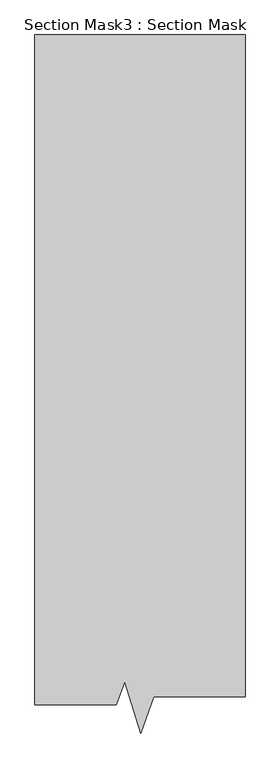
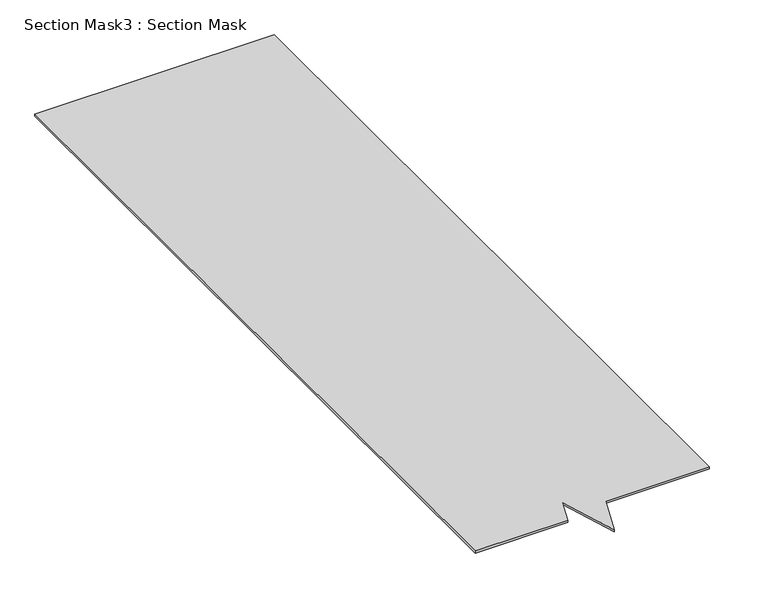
"""IFC4 building model written with IfcOpenShell, lengths in millimetres: proxy geometry, Section Mask3 : Section Mask."""

import ifcopenshell
import ifcopenshell.guid

model = None  # the IFC model being written
_history = None  # IfcOwnerHistory: only IFC2X3 demands one
_inside = {}  # id of a spatial element -> (the spatial element, [elements in it])
_under = {}  # id of a project, library or spatial element -> (it, [spatial elements below it])
_declared = {}  # id of a project -> (the project, [libraries it declares])
_typed = {}  # id of a type object -> (the type object, [elements of that type])
_made_of = {}  # id of a material, layer set ... -> (it, [elements and type objects made of it])


def new_model(schema):
    """Start an empty IFC model of exactly this schema.

    Asked for "IFC4X3", IfcOpenShell would pick the latest addendum, in which some entities
    have other attributes; the version numbers below select the first issue.
    IFC2X3 requires an IfcOwnerHistory on every rooted entity: one is made here for all.
    """
    global model, _history
    if schema == "IFC4X3":
        model = ifcopenshell.file(schema_version=(4, 3, 0, 0))
    else:
        model = ifcopenshell.file(schema=schema)
    _inside.clear()
    _under.clear()
    _declared.clear()
    _typed.clear()
    _made_of.clear()
    _history = None
    if model.schema == "IFC2X3":
        org = make("IfcOrganization", Name="unknown")
        user = make(
            "IfcPersonAndOrganization",
            ThePerson=make("IfcPerson", FamilyName="unknown"),
            TheOrganization=org,
        )
        app = make(
            "IfcApplication",
            ApplicationDeveloper=org,
            Version="unknown",
            ApplicationFullName="unknown",
            ApplicationIdentifier="unknown",
        )
        _history = make(
            "IfcOwnerHistory",
            OwningUser=user,
            OwningApplication=app,
            ChangeAction="ADDED",
            CreationDate=0,
        )
    return model


def make(cls, **values):
    """One entity of the class cls with the attributes given. An attribute that is None is left unset."""
    return model.create_entity(
        cls, **{name: value for name, value in values.items() if value is not None}
    )


def rooted(cls, **values):
    """An entity with a GlobalId (a new one), such as an element, a storey or a relation."""
    return make(cls, GlobalId=ifcopenshell.guid.new(), OwnerHistory=_history, **values)


def si_unit(unit_type, name, prefix=None):
    """IfcSIUnit, for example si_unit("LENGTHUNIT", "METRE", prefix="MILLI")."""
    return make("IfcSIUnit", UnitType=unit_type, Prefix=prefix, Name=name)


def assignment(units):
    """IfcUnitAssignment: the units of a project."""
    return None if units is None else make("IfcUnitAssignment", Units=units)


def point(xyz):
    """IfcCartesianPoint."""
    return None if xyz is None else make("IfcCartesianPoint", Coordinates=xyz)


def direction(xyz):
    """IfcDirection."""
    return None if xyz is None else make("IfcDirection", DirectionRatios=xyz)


def frame(location, z_axis=None, x_axis=None):
    """IfcAxis2Placement3D, a coordinate frame: its origin and axes. An axis left out is left unset."""
    return make(
        "IfcAxis2Placement3D",
        Location=point(location),
        Axis=direction(z_axis),
        RefDirection=direction(x_axis),
    )


def origin():
    """The frame at (0, 0, 0) with its axes left unset."""
    return frame((0.0, 0.0, 0.0))


def place(relative_to, where):
    """IfcLocalPlacement: puts the frame where relative to a parent placement (None: the world)."""
    return make(
        "IfcLocalPlacement", PlacementRelTo=relative_to, RelativePlacement=where
    )


def context(
    kind, dimensions, precision=None, world=None, true_north=None, identifier=None
):
    """IfcGeometricRepresentationContext, for example the 3D "Model" context."""
    return make(
        "IfcGeometricRepresentationContext",
        ContextIdentifier=identifier,
        ContextType=kind,
        CoordinateSpaceDimension=dimensions,
        Precision=precision,
        WorldCoordinateSystem=world,
        TrueNorth=true_north,
    )


def project(units=None, contexts=None):
    """IfcProject with its units and contexts."""
    return rooted(
        "IfcProject",
        Name="project",
        RepresentationContexts=contexts,
        UnitsInContext=assignment(units),
    )


def spatial(cls, under=None, at=None, **own):
    """A site, building, storey or space (cls), placed at a placement, below another one or the project."""
    s = rooted(cls, ObjectPlacement=at, **own)
    if under is not None:
        _under.setdefault(under.id(), (under, []))[1].append(s)
    return s


def polyline(points):
    """IfcPolyline through the points."""
    return make("IfcPolyline", Points=[point(p) for p in points])


def outline(outer, holes=None, kind="AREA"):
    """IfcArbitraryClosedProfileDef: a profile drawn as a closed curve; with holes, ...WithVoids."""
    if holes is None:
        return make("IfcArbitraryClosedProfileDef", ProfileType=kind, OuterCurve=outer)
    return make(
        "IfcArbitraryProfileDefWithVoids",
        ProfileType=kind,
        OuterCurve=outer,
        InnerCurves=holes,
    )


def extrude(swept, where, along, depth):
    """IfcExtrudedAreaSolid: the profile swept, set in the frame where, extruded along a direction by depth."""
    return make(
        "IfcExtrudedAreaSolid",
        SweptArea=swept,
        Position=where,
        ExtrudedDirection=direction(along),
        Depth=depth,
    )


def shape(context_of_items, identifier, shape_type, items):
    """IfcShapeRepresentation: the items that make up one representation, for example the "Body"."""
    return make(
        "IfcShapeRepresentation",
        ContextOfItems=context_of_items,
        RepresentationIdentifier=identifier,
        RepresentationType=shape_type,
        Items=items,
    )


def source(mapping_origin, context_of_items, identifier, shape_type, items):
    """IfcRepresentationMap: a shape defined once, which mapped items show again and again."""
    return make(
        "IfcRepresentationMap",
        MappingOrigin=mapping_origin,
        MappedRepresentation=shape(context_of_items, identifier, shape_type, items),
    )


def transform(
    local_origin,
    x_axis=None,
    y_axis=None,
    z_axis=None,
    scale=None,
    scale2=None,
    scale3=None,
    uniform=True,
):
    """IfcCartesianTransformationOperator3D, or its non-uniform kind. x_axis, y_axis, z_axis: its Axis1, 2, 3."""
    if uniform:
        return make(
            "IfcCartesianTransformationOperator3D",
            Axis1=direction(x_axis),
            Axis2=direction(y_axis),
            LocalOrigin=point(local_origin),
            Scale=scale,
            Axis3=direction(z_axis),
        )
    return make(
        "IfcCartesianTransformationOperator3DnonUniform",
        Axis1=direction(x_axis),
        Axis2=direction(y_axis),
        LocalOrigin=point(local_origin),
        Scale=scale,
        Axis3=direction(z_axis),
        Scale2=scale2,
        Scale3=scale3,
    )


def mapped(mapping_source, mapping_target):
    """IfcMappedItem: shows the shape of a source again, moved by a transform."""
    return make(
        "IfcMappedItem", MappingSource=mapping_source, MappingTarget=mapping_target
    )


def made_of(thing, what):
    """Note that an element or type object is made of a material, layer set ...; save() writes the relation."""
    if what is not None:
        _made_of.setdefault(what.id(), (what, []))[1].append(thing)
    return thing


def element(
    cls,
    number,
    at=None,
    inside=None,
    cuts=None,
    type_object=None,
    material=None,
    context=None,
    identifier="Body",
    shape_type=None,
    held_by="IfcProductDefinitionShape",
    body=None,
    shapes=None,
    **own,
):
    """One element of the class cls, such as IfcWall. Its Tag is "e" and its number.

    at: its placement. inside: the storey or other place that contains it. cuts: it is an
    opening in that element (IfcRelVoidsElement). A single representation is given by context,
    identifier, shape_type and body (its items); several are given by shapes. held_by: the class
    of the entity that holds the representations. save() writes the other relations.
    """
    e = rooted(cls, Tag="e%d" % number, ObjectPlacement=at, **own)
    if body is not None:
        shapes = [shape(context, identifier, shape_type, body)]
    if shapes is not None:
        e.Representation = make(held_by, Representations=shapes)
    if inside is not None:
        _inside.setdefault(inside.id(), (inside, []))[1].append(e)
    if cuts is not None:
        rooted(
            "IfcRelVoidsElement", RelatingBuildingElement=cuts, RelatedOpeningElement=e
        )
    if type_object is not None:
        _typed.setdefault(type_object.id(), (type_object, []))[1].append(e)
    return made_of(e, material)


def aggregate(whole, parts):
    """IfcRelAggregates: a whole, such as a stair, and the parts it consists of."""
    return rooted("IfcRelAggregates", RelatingObject=whole, RelatedObjects=parts)


def save(model, path):
    """Write the relations noted so far, then the file.

    IfcRelAggregates (storeys below a building ...), IfcRelContainedInSpatialStructure (elements
    in a storey), IfcRelDefinesByType, IfcRelAssociatesMaterial and IfcRelDeclares: one each for
    every whole, place, type object, material and project.
    """
    for whole, parts in _under.values():
        aggregate(whole, parts)
    for where, things in _inside.values():
        rooted(
            "IfcRelContainedInSpatialStructure",
            RelatedElements=things,
            RelatingStructure=where,
        )
    for kind, things in _typed.values():
        rooted("IfcRelDefinesByType", RelatedObjects=things, RelatingType=kind)
    for what, things in _made_of.values():
        rooted("IfcRelAssociatesMaterial", RelatedObjects=things, RelatingMaterial=what)
    for by, libraries in _declared.values():
        rooted("IfcRelDeclares", RelatingContext=by, RelatedDefinitions=libraries)
    model.write(path)


def section_mask3_section_mask_784fd4bf(model_context):
    return source(origin(), model_context, "Body", "SweptSolid", [
        extrude(outline(polyline([(8124.664325, 631.273934), (7901.4196179, 631.273934), (7901.4196179, 2465.4614947), (8477.020931, 2465.4614947), (8477.020931, 652.1224056), (8227.2982256, 652.1224056), (8190.6813689, 552.9595639), (8147.6812645, 693.6065681), (8124.664325, 631.273934)])), frame((0.0, 0.0, 45.0273345), z_axis=(0.0, 0.0, 1.0), x_axis=(1.0, 0.0, 0.0)), (0.0, 0.0, 1.0), 5.6926241),
    ])


if __name__ == "__main__":
    model = new_model("IFC4")
    model_context = context("Model", 3, world=origin())
    ifc_project = project(units=[si_unit("LENGTHUNIT", "METRE", prefix="MILLI")], contexts=[model_context])
    site = spatial("IfcSite", under=ifc_project)
    building = spatial("IfcBuilding", under=site)
    placement = place(None, origin())
    section_mask3_section_mask_shape = section_mask3_section_mask_784fd4bf(model_context)
    element("IfcBuildingElementProxy", 1, Name="Section Mask3 : Section Mask", ObjectType="Section Mask3 : Section Mask", at=placement, inside=building, context=model_context, shape_type="MappedRepresentation", body=[
        mapped(section_mask3_section_mask_shape, transform((0.0, 0.0, 0.0), x_axis=(1.0, 0.0, 0.0), y_axis=(0.0, 1.0, 0.0), z_axis=(0.0, 0.0, 1.0))),
    ])
    save(model, "model.ifc")
